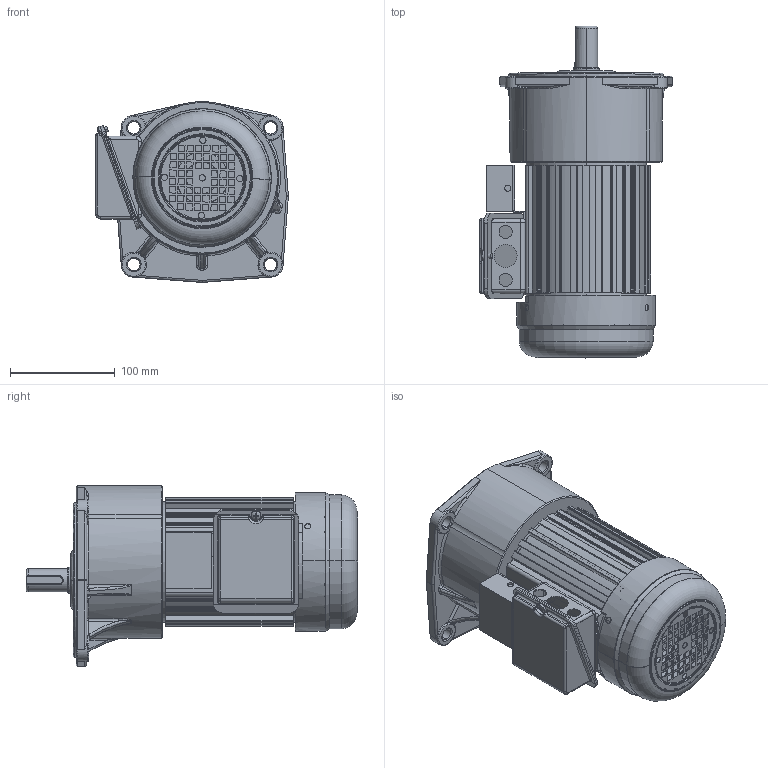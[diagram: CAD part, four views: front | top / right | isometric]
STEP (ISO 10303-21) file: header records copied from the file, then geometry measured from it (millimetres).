
FILE_DESCRIPTION (( 'STEP AP203' ), '1' );
FILE_NAME ('单相200W配2#立式带刹车.STEP', '2020-04-23T03:25:04', ( 'china' ), ( 'china' ), 'SwSTEP 2.0', 'SolidWorks 2019', '' );
FILE_SCHEMA (( 'CONFIG_CONTROL_DESIGN' ));
Length unit declared in the file: millimetre
Products named in the file (5): 等眈200W2#蕾宒; 100W棠憤迖殤; 100W价陬瑞欶; 淕霜ん; 单相200W配2#立式带刹车
Assembly tree (4 placements, depth 2):
  单相200W配2#立式带刹车
    等眈200W2#蕾宒
    100W棠憤迖殤
    100W价陬瑞欶
    淕霜ん
Bounding box: 184.38 x 317.51 x 172.99 mm (x, y, z)
Volume: 625835.1 mm3; surface area: 401367.3 mm2
Topology: 7 solids, 8 shells, 1105 faces, 2986 edges, 1901 vertices
Faces by surface type: plane 435, cylinder 428, bspline 151, torus 56, cone 29, sphere 6
Full cylindrical faces by diameter (mm): 4 x1
Entity records: 45627 total; most frequent: CARTESIAN_POINT 17685, ORIENTED_EDGE 5922, DIRECTION 5535, EDGE_CURVE 2961, AXIS2_PLACEMENT_3D 1993, VERTEX_POINT 1901, VECTOR 1549, LINE 1549
